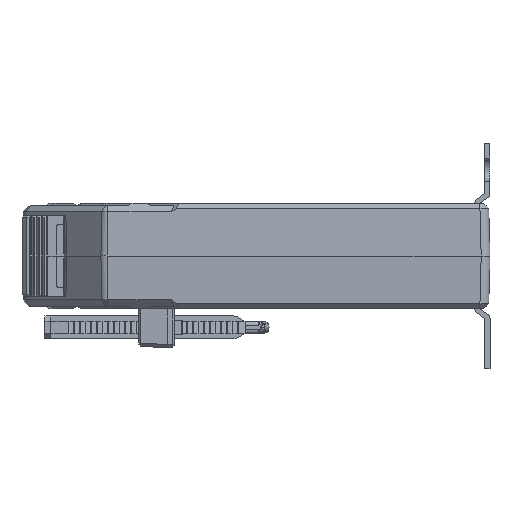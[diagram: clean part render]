
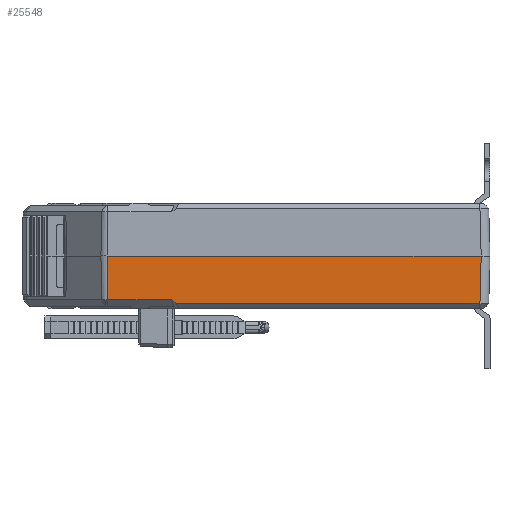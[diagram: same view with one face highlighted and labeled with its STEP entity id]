
A CAD part, left-side view. The second image highlights one B-rep face of the part: STEP entity #25548.
In plain terms, the highlighted planar face has unit normal (-1, 0, -0.026).
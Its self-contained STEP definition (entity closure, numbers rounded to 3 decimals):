
#3838 = DIRECTION ( 'NONE',  ( 0.015, -0.811, -0.584 ) ) ;
#4141 = CARTESIAN_POINT ( 'NONE',  ( -53., 49.465, 0. ) ) ;
#5671 = LINE ( 'NONE', #110847, #70383 ) ;
#6272 = EDGE_CURVE ( 'NONE', #39320, #93858, #5671, .T. ) ;
#10165 = DIRECTION ( 'NONE',  ( 0., -1., 0. ) ) ;
#10910 = VECTOR ( 'NONE', #130441, 1000. ) ;
#11181 = EDGE_CURVE ( 'NONE', #18218, #93858, #79226, .T. ) ;
#13690 = VECTOR ( 'NONE', #122139, 1000. ) ;
#15621 = AXIS2_PLACEMENT_3D ( 'NONE', #87993, #43615, #25855 ) ;
#16688 = VECTOR ( 'NONE', #10165, 1000. ) ;
#18218 = VERTEX_POINT ( 'NONE', #102175 ) ;
#18245 = ORIENTED_EDGE ( 'NONE', *, *, #19668, .T. ) ;
#19668 = EDGE_CURVE ( 'NONE', #89508, #18218, #109816, .T. ) ;
#25548 = ADVANCED_FACE ( 'NONE', ( #118743 ), #66773, .T. ) ;
#25580 = CARTESIAN_POINT ( 'NONE',  ( -53., -56.501, 0. ) ) ;
#25855 = DIRECTION ( 'NONE',  ( -0.026, 0., 1. ) ) ;
#28279 = EDGE_LOOP ( 'NONE', ( #35046, #100327, #18245, #49990, #71708, #39651 ) ) ;
#33956 = CARTESIAN_POINT ( 'NONE',  ( -51.664, -22.229, -51.005 ) ) ;
#35046 = ORIENTED_EDGE ( 'NONE', *, *, #124222, .T. ) ;
#39320 = VERTEX_POINT ( 'NONE', #4141 ) ;
#39651 = ORIENTED_EDGE ( 'NONE', *, *, #92652, .T. ) ;
#43615 = DIRECTION ( 'NONE',  ( -1., 0., -0.026 ) ) ;
#47126 = CARTESIAN_POINT ( 'NONE',  ( -53.002, -56.503, 0.065 ) ) ;
#49990 = ORIENTED_EDGE ( 'NONE', *, *, #11181, .T. ) ;
#60596 = CARTESIAN_POINT ( 'NONE',  ( -52.674, 49.33, -12.46 ) ) ;
#61678 = VERTEX_POINT ( 'NONE', #99001 ) ;
#63281 = DIRECTION ( 'NONE',  ( 0.026, -0.011, -1. ) ) ;
#66773 = PLANE ( 'NONE',  #15621 ) ;
#67132 = DIRECTION ( 'NONE',  ( 0., -1., 0. ) ) ;
#70383 = VECTOR ( 'NONE', #67132, 1000. ) ;
#71708 = ORIENTED_EDGE ( 'NONE', *, *, #6272, .F. ) ;
#73747 = VECTOR ( 'NONE', #63281, 1000. ) ;
#79226 = LINE ( 'NONE', #47126, #10910 ) ;
#87993 = CARTESIAN_POINT ( 'NONE',  ( -53., -59., 0. ) ) ;
#89508 = VERTEX_POINT ( 'NONE', #98306 ) ;
#92652 = EDGE_CURVE ( 'NONE', #39320, #106298, #93401, .T. ) ;
#93401 = LINE ( 'NONE', #126137, #73747 ) ;
#93858 = VERTEX_POINT ( 'NONE', #25580 ) ;
#95071 = EDGE_CURVE ( 'NONE', #61678, #89508, #118606, .T. ) ;
#98306 = CARTESIAN_POINT ( 'NONE',  ( -52.648, 29.885, -13.46 ) ) ;
#98929 = CARTESIAN_POINT ( 'NONE',  ( -52.648, -56.108, -13.46 ) ) ;
#99001 = CARTESIAN_POINT ( 'NONE',  ( -52.674, 31.273, -12.46 ) ) ;
#100327 = ORIENTED_EDGE ( 'NONE', *, *, #95071, .T. ) ;
#102175 = CARTESIAN_POINT ( 'NONE',  ( -52.648, -56.148, -13.46 ) ) ;
#106298 = VERTEX_POINT ( 'NONE', #60596 ) ;
#109208 = VECTOR ( 'NONE', #3838, 1000. ) ;
#109816 = LINE ( 'NONE', #98929, #13690 ) ;
#110847 = CARTESIAN_POINT ( 'NONE',  ( -53., -59., 0. ) ) ;
#114024 = LINE ( 'NONE', #114717, #16688 ) ;
#114717 = CARTESIAN_POINT ( 'NONE',  ( -52.674, 29.135, -12.46 ) ) ;
#118606 = LINE ( 'NONE', #33956, #109208 ) ;
#118743 = FACE_OUTER_BOUND ( 'NONE', #28279, .T. ) ;
#122139 = DIRECTION ( 'NONE',  ( 0., -1., 0. ) ) ;
#124222 = EDGE_CURVE ( 'NONE', #106298, #61678, #114024, .T. ) ;
#126137 = CARTESIAN_POINT ( 'NONE',  ( -52.969, 49.452, -1.176 ) ) ;
#130441 = DIRECTION ( 'NONE',  ( -0.026, -0.026, 0.999 ) ) ;
